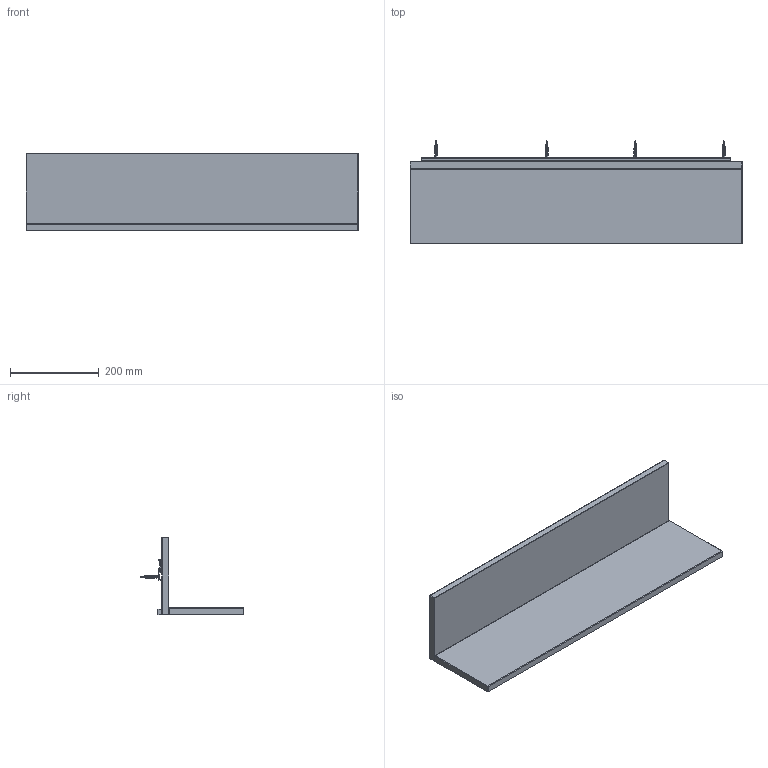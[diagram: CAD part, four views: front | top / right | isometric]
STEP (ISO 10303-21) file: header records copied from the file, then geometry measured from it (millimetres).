
FILE_DESCRIPTION(/* description */ (''),/* implementation_level */ '2;1');
FILE_NAME(/* name */ 'Tana Wall Shelf',/* time_stamp */ '2023-11-14T16:58:14+01:00',/* author */ (''),/* organization */ (''),/* preprocessor_version */ 'ST-DEVELOPER v16.5',/* originating_system */ 'Rhino 7.34',/* authorisation */ '');
FILE_SCHEMA (('CONFIG_CONTROL_DESIGN'));
Length unit declared in the file: millimetre
Products named in the file (1): Document
Bounding box: 750 x 234.49 x 175 mm (x, y, z)
Volume: 4249870.6 mm3; surface area: 684308.2 mm2
Topology: 18 solids, 18 shells, 634 faces, 1706 edges, 1120 vertices
Faces by surface type: plane 312, bspline 172, cylinder 150
Full cylindrical faces by diameter (mm): 4 x4, 5 x2, 8 x14
Entity records: 34332 total; most frequent: CARTESIAN_POINT 23340, ORIENTED_EDGE 3412, EDGE_CURVE 1706, B_SPLINE_CURVE_WITH_KNOTS 1164, VERTEX_POINT 1120, EDGE_LOOP 714, ADVANCED_FACE 634, FACE_OUTER_BOUND 634
